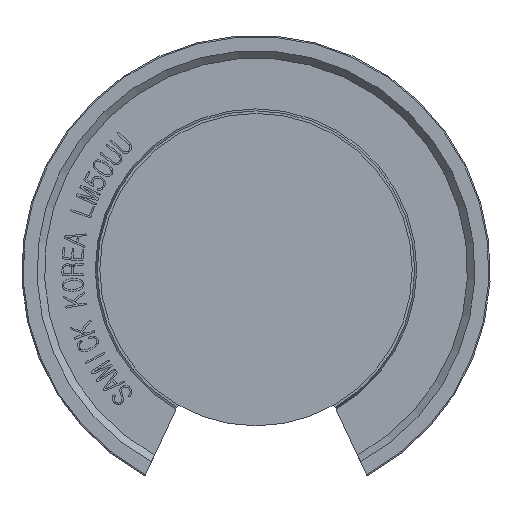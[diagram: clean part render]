
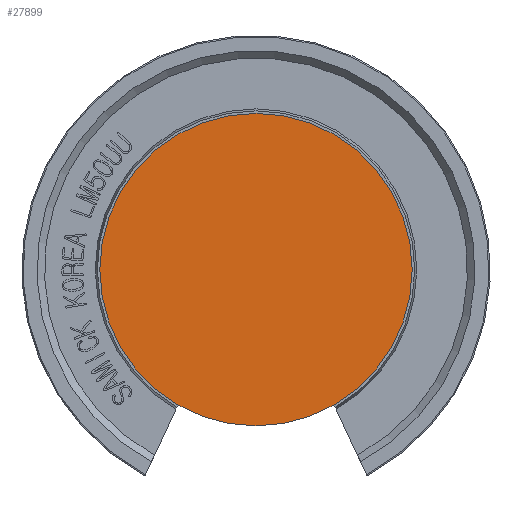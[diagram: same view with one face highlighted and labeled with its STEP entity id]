
A CAD part, front view. The second image highlights one B-rep face of the part: STEP entity #27899.
In plain terms, the highlighted planar face has unit normal (0, -1, 0).
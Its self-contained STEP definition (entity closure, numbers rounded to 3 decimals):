
#27634=CARTESIAN_POINT('',(-25.0,-75.0,0.));
#27635=VERTEX_POINT('',#27634);
#27636=CARTESIAN_POINT('',(0.0,-75.0,0.0));
#27637=DIRECTION('',(0.0,1.0,0.0));
#27638=DIRECTION('',(1.0,0.0,0.0));
#27639=AXIS2_PLACEMENT_3D('',#27636,#27637,#27638);
#27640=CIRCLE('',#27639,25.0);
#27641=EDGE_CURVE('',#27635,#27635,#27640,.T.);
#27891=CARTESIAN_POINT('',(0.0,-75.0,0.0));
#27892=DIRECTION('',(0.0,-1.0,0.0));
#27893=DIRECTION('',(0.0,0.0,-1.0));
#27894=AXIS2_PLACEMENT_3D('',#27891,#27892,#27893);
#27895=PLANE('',#27894);
#27896=ORIENTED_EDGE('',*,*,#27641,.F.);
#27897=EDGE_LOOP('',(#27896));
#27898=FACE_OUTER_BOUND('',#27897,.T.);
#27899=ADVANCED_FACE('',(#27898),#27895,.T.);
